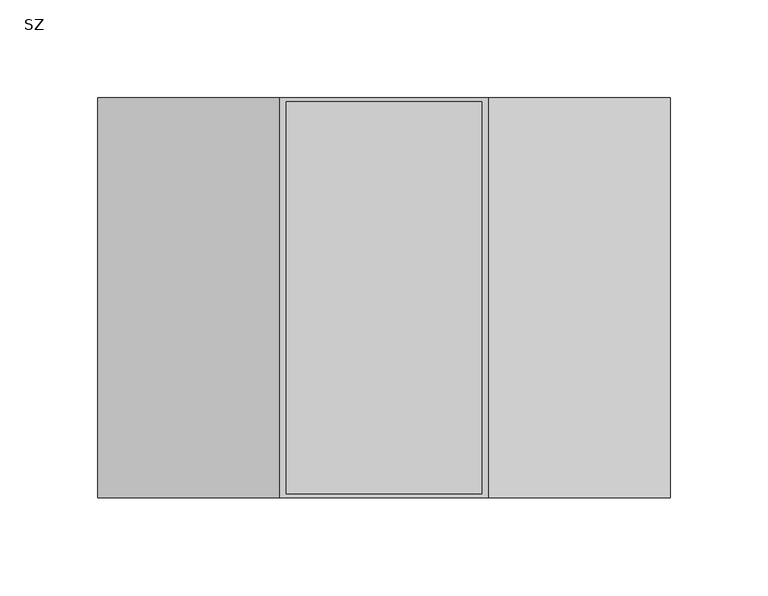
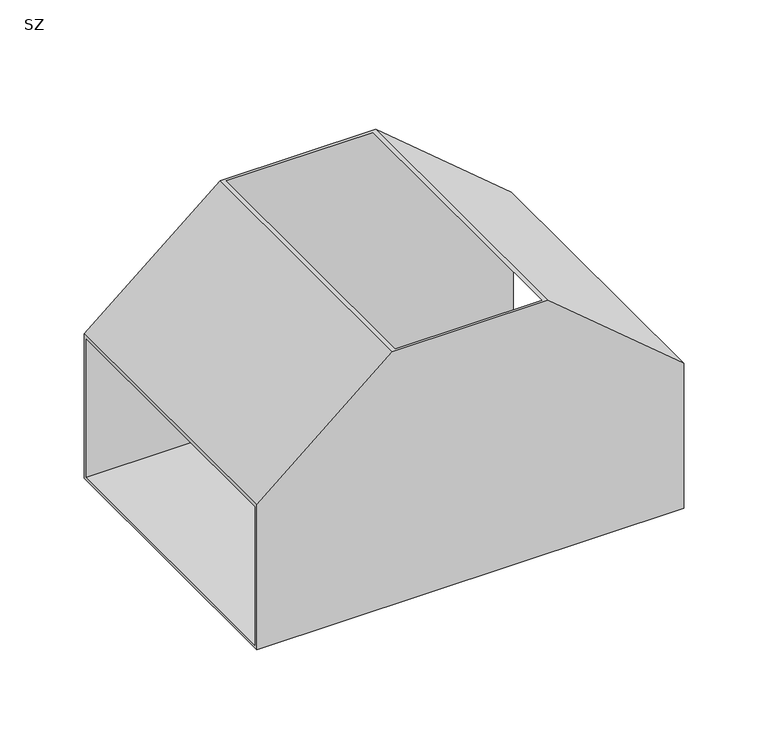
"""IFC4 building model written with IfcOpenShell, lengths in millimetres: cable carrier fitting geometry, IEK_Листовой_Разветвитель Т-обр вверх : SZ."""

import ifcopenshell
import ifcopenshell.guid

model = None  # the IFC model being written
_history = None  # IfcOwnerHistory: only IFC2X3 demands one
_inside = {}  # id of a spatial element -> (the spatial element, [elements in it])
_under = {}  # id of a project, library or spatial element -> (it, [spatial elements below it])
_declared = {}  # id of a project -> (the project, [libraries it declares])
_typed = {}  # id of a type object -> (the type object, [elements of that type])
_made_of = {}  # id of a material, layer set ... -> (it, [elements and type objects made of it])


def new_model(schema):
    """Start an empty IFC model of exactly this schema.

    Asked for "IFC4X3", IfcOpenShell would pick the latest addendum, in which some entities
    have other attributes; the version numbers below select the first issue.
    IFC2X3 requires an IfcOwnerHistory on every rooted entity: one is made here for all.
    """
    global model, _history
    if schema == "IFC4X3":
        model = ifcopenshell.file(schema_version=(4, 3, 0, 0))
    else:
        model = ifcopenshell.file(schema=schema)
    _inside.clear()
    _under.clear()
    _declared.clear()
    _typed.clear()
    _made_of.clear()
    _history = None
    if model.schema == "IFC2X3":
        org = make("IfcOrganization", Name="unknown")
        user = make(
            "IfcPersonAndOrganization",
            ThePerson=make("IfcPerson", FamilyName="unknown"),
            TheOrganization=org,
        )
        app = make(
            "IfcApplication",
            ApplicationDeveloper=org,
            Version="unknown",
            ApplicationFullName="unknown",
            ApplicationIdentifier="unknown",
        )
        _history = make(
            "IfcOwnerHistory",
            OwningUser=user,
            OwningApplication=app,
            ChangeAction="ADDED",
            CreationDate=0,
        )
    return model


def make(cls, **values):
    """One entity of the class cls with the attributes given. An attribute that is None is left unset."""
    return model.create_entity(
        cls, **{name: value for name, value in values.items() if value is not None}
    )


def rooted(cls, **values):
    """An entity with a GlobalId (a new one), such as an element, a storey or a relation."""
    return make(cls, GlobalId=ifcopenshell.guid.new(), OwnerHistory=_history, **values)


def si_unit(unit_type, name, prefix=None):
    """IfcSIUnit, for example si_unit("LENGTHUNIT", "METRE", prefix="MILLI")."""
    return make("IfcSIUnit", UnitType=unit_type, Prefix=prefix, Name=name)


def assignment(units):
    """IfcUnitAssignment: the units of a project."""
    return None if units is None else make("IfcUnitAssignment", Units=units)


def point(xyz):
    """IfcCartesianPoint."""
    return None if xyz is None else make("IfcCartesianPoint", Coordinates=xyz)


def direction(xyz):
    """IfcDirection."""
    return None if xyz is None else make("IfcDirection", DirectionRatios=xyz)


def frame(location, z_axis=None, x_axis=None):
    """IfcAxis2Placement3D, a coordinate frame: its origin and axes. An axis left out is left unset."""
    return make(
        "IfcAxis2Placement3D",
        Location=point(location),
        Axis=direction(z_axis),
        RefDirection=direction(x_axis),
    )


def origin():
    """The frame at (0, 0, 0) with its axes left unset."""
    return frame((0.0, 0.0, 0.0))


def place(relative_to, where):
    """IfcLocalPlacement: puts the frame where relative to a parent placement (None: the world)."""
    return make(
        "IfcLocalPlacement", PlacementRelTo=relative_to, RelativePlacement=where
    )


def context(
    kind, dimensions, precision=None, world=None, true_north=None, identifier=None
):
    """IfcGeometricRepresentationContext, for example the 3D "Model" context."""
    return make(
        "IfcGeometricRepresentationContext",
        ContextIdentifier=identifier,
        ContextType=kind,
        CoordinateSpaceDimension=dimensions,
        Precision=precision,
        WorldCoordinateSystem=world,
        TrueNorth=true_north,
    )


def project(units=None, contexts=None):
    """IfcProject with its units and contexts."""
    return rooted(
        "IfcProject",
        Name="project",
        RepresentationContexts=contexts,
        UnitsInContext=assignment(units),
    )


def spatial(cls, under=None, at=None, **own):
    """A site, building, storey or space (cls), placed at a placement, below another one or the project."""
    s = rooted(cls, ObjectPlacement=at, **own)
    if under is not None:
        _under.setdefault(under.id(), (under, []))[1].append(s)
    return s


def faces_of(points, faces, orient=None, outer=None):
    """IfcFace entities. A face is a list of loops; a loop is a list of indices into points, from 0.

    orient and outer hold one flag for each loop. By default every Orientation is true, the
    first loop of a face is its IfcFaceOuterBound and the others are IfcFaceBound.
    """
    made = []
    for i, loops in enumerate(faces):
        bounds = []
        for j, loop in enumerate(loops):
            is_outer = j == 0 if outer is None else outer[i][j]
            bounds.append(
                make(
                    "IfcFaceOuterBound" if is_outer else "IfcFaceBound",
                    Bound=make("IfcPolyLoop", Polygon=[points[k] for k in loop]),
                    Orientation=True if orient is None else orient[i][j],
                )
            )
        made.append(make("IfcFace", Bounds=bounds))
    return made


def faceted_brep(points, faces, orient=None, outer=None, voids=None):
    """IfcFacetedBrep: a solid bounded by flat faces; with voids (closed shells), ...WithVoids."""
    shared = [point(p) for p in points]
    hull = make("IfcClosedShell", CfsFaces=faces_of(shared, faces, orient, outer))
    if voids is None:
        return make("IfcFacetedBrep", Outer=hull)
    return make(
        "IfcFacetedBrepWithVoids",
        Outer=hull,
        Voids=[
            make(cls, CfsFaces=faces_of(shared, fs, o, b)) for cls, fs, o, b in voids
        ],
    )


def shape(context_of_items, identifier, shape_type, items):
    """IfcShapeRepresentation: the items that make up one representation, for example the "Body"."""
    return make(
        "IfcShapeRepresentation",
        ContextOfItems=context_of_items,
        RepresentationIdentifier=identifier,
        RepresentationType=shape_type,
        Items=items,
    )


def source(mapping_origin, context_of_items, identifier, shape_type, items):
    """IfcRepresentationMap: a shape defined once, which mapped items show again and again."""
    return make(
        "IfcRepresentationMap",
        MappingOrigin=mapping_origin,
        MappedRepresentation=shape(context_of_items, identifier, shape_type, items),
    )


def transform(
    local_origin,
    x_axis=None,
    y_axis=None,
    z_axis=None,
    scale=None,
    scale2=None,
    scale3=None,
    uniform=True,
):
    """IfcCartesianTransformationOperator3D, or its non-uniform kind. x_axis, y_axis, z_axis: its Axis1, 2, 3."""
    if uniform:
        return make(
            "IfcCartesianTransformationOperator3D",
            Axis1=direction(x_axis),
            Axis2=direction(y_axis),
            LocalOrigin=point(local_origin),
            Scale=scale,
            Axis3=direction(z_axis),
        )
    return make(
        "IfcCartesianTransformationOperator3DnonUniform",
        Axis1=direction(x_axis),
        Axis2=direction(y_axis),
        LocalOrigin=point(local_origin),
        Scale=scale,
        Axis3=direction(z_axis),
        Scale2=scale2,
        Scale3=scale3,
    )


def mapped(mapping_source, mapping_target):
    """IfcMappedItem: shows the shape of a source again, moved by a transform."""
    return make(
        "IfcMappedItem", MappingSource=mapping_source, MappingTarget=mapping_target
    )


def made_of(thing, what):
    """Note that an element or type object is made of a material, layer set ...; save() writes the relation."""
    if what is not None:
        _made_of.setdefault(what.id(), (what, []))[1].append(thing)
    return thing


def element(
    cls,
    number,
    at=None,
    inside=None,
    cuts=None,
    type_object=None,
    material=None,
    context=None,
    identifier="Body",
    shape_type=None,
    held_by="IfcProductDefinitionShape",
    body=None,
    shapes=None,
    **own,
):
    """One element of the class cls, such as IfcWall. Its Tag is "e" and its number.

    at: its placement. inside: the storey or other place that contains it. cuts: it is an
    opening in that element (IfcRelVoidsElement). A single representation is given by context,
    identifier, shape_type and body (its items); several are given by shapes. held_by: the class
    of the entity that holds the representations. save() writes the other relations.
    """
    e = rooted(cls, Tag="e%d" % number, ObjectPlacement=at, **own)
    if body is not None:
        shapes = [shape(context, identifier, shape_type, body)]
    if shapes is not None:
        e.Representation = make(held_by, Representations=shapes)
    if inside is not None:
        _inside.setdefault(inside.id(), (inside, []))[1].append(e)
    if cuts is not None:
        rooted(
            "IfcRelVoidsElement", RelatingBuildingElement=cuts, RelatedOpeningElement=e
        )
    if type_object is not None:
        _typed.setdefault(type_object.id(), (type_object, []))[1].append(e)
    return made_of(e, material)


def aggregate(whole, parts):
    """IfcRelAggregates: a whole, such as a stair, and the parts it consists of."""
    return rooted("IfcRelAggregates", RelatingObject=whole, RelatedObjects=parts)


def save(model, path):
    """Write the relations noted so far, then the file.

    IfcRelAggregates (storeys below a building ...), IfcRelContainedInSpatialStructure (elements
    in a storey), IfcRelDefinesByType, IfcRelAssociatesMaterial and IfcRelDeclares: one each for
    every whole, place, type object, material and project.
    """
    for whole, parts in _under.values():
        aggregate(whole, parts)
    for where, things in _inside.values():
        rooted(
            "IfcRelContainedInSpatialStructure",
            RelatedElements=things,
            RelatingStructure=where,
        )
    for kind, things in _typed.values():
        rooted("IfcRelDefinesByType", RelatedObjects=things, RelatingType=kind)
    for what, things in _made_of.values():
        rooted("IfcRelAssociatesMaterial", RelatedObjects=things, RelatingMaterial=what)
    for by, libraries in _declared.values():
        rooted("IfcRelDeclares", RelatingContext=by, RelatedDefinitions=libraries)
    model.write(path)


def sz_bbab0c20(model_context):
    return source(origin(), model_context, "Body", "Brep", [
        faceted_brep([(-53.1088884, -102.0, 130.6666667), (-146.0, -102.0, 52.6123298), (-146.0, -102.0, -52.0), (146.0, -102.0, -52.0), (146.0, -102.0, 52.6123298), (53.1088884, -102.0, 130.6666667), (-50.0, -100.0, 130.6666667), (50.0, -100.0, 130.6666667), (146.0, -100.0, 50.0), (146.0, -100.0, -50.0), (-146.0, -100.0, -50.0), (-146.0, -100.0, 50.0), (-146.0, 102.0, -52.0), (-146.0, 102.0, 52.6123298), (-146.0, 100.0, -50.0), (-146.0, 100.0, 50.0), (146.0, 102.0, -52.0), (146.0, 102.0, 52.6123298), (146.0, 100.0, 50.0), (146.0, 100.0, -50.0), (-53.1088884, 102.0, 130.6666667), (53.1088884, 102.0, 130.6666667), (-50.0, 100.0, 130.6666667), (50.0, 100.0, 130.6666667)], [[[0, 1, 2, 3, 4, 5]], [[6, 7, 8, 9, 10, 11]], [[12, 2, 1, 13], [11, 10, 14, 15]], [[4, 3, 16, 17], [9, 8, 18, 19]], [[20, 0, 5, 21], [7, 6, 22, 23]], [[12, 13, 20, 21, 17, 16]], [[6, 11, 15, 22]], [[1, 0, 20, 13]], [[8, 7, 23, 18]], [[5, 4, 17, 21]], [[19, 18, 23, 22, 15, 14]], [[9, 19, 14, 10]], [[16, 3, 2, 12]]]),
    ])


if __name__ == "__main__":
    model = new_model("IFC4")
    model_context = context("Model", 3, world=origin())
    ifc_project = project(units=[si_unit("LENGTHUNIT", "METRE", prefix="MILLI")], contexts=[model_context])
    site = spatial("IfcSite", under=ifc_project)
    building = spatial("IfcBuilding", under=site)
    placement = place(None, origin())
    sz_shape = sz_bbab0c20(model_context)
    element("IfcCableCarrierFitting", 1, ObjectType="IEK_Листовой_Разветвитель Т-обр вверх : SZ", at=placement, inside=building, context=model_context, shape_type="MappedRepresentation", body=[
        mapped(sz_shape, transform((0.0, 0.0, 0.0), x_axis=(1.0, 0.0, 0.0), y_axis=(0.0, 1.0, 0.0), z_axis=(0.0, 0.0, 1.0))),
    ])
    save(model, "model.ifc")
